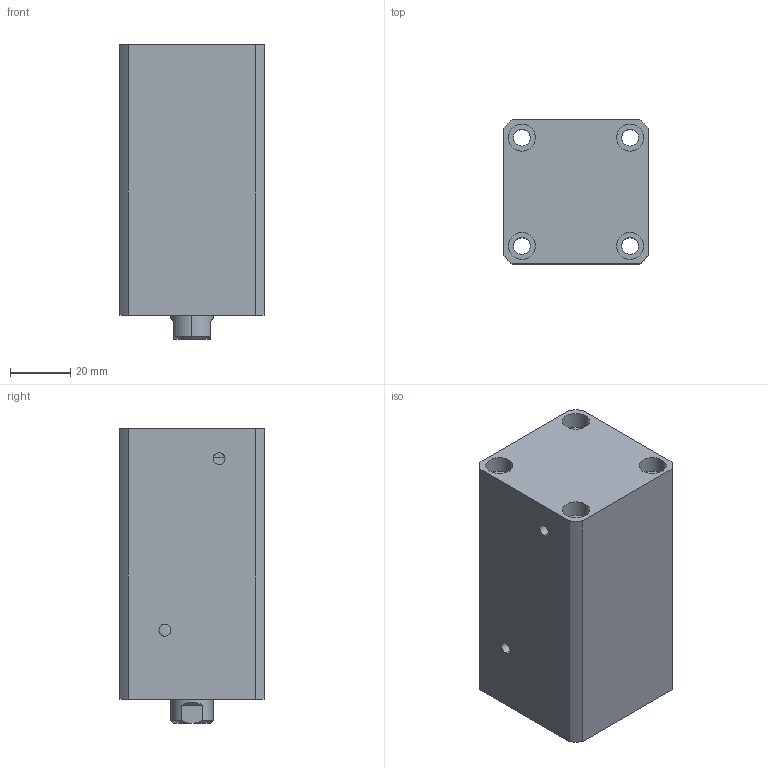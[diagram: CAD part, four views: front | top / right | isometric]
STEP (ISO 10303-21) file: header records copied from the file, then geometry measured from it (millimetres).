
FILE_DESCRIPTION (( 'STEP AP214' ), '1' );
FILE_NAME ('chtb-sdma25x45n_asm.STEP', '2018-05-22T07:06:10', ( 'Windows' ), ( 'Microsoft' ), 'SwSTEP 2.0', 'SolidWorks 2015', '' );
FILE_SCHEMA (( 'AUTOMOTIVE_DESIGN' ));
Length unit declared in the file: millimetre
Products named in the file (4): CHTB-SDMA25X45NHSG; CHTB-SDMA25X45NBT; CHTB-25QG; chtb-sdma25x45n_asm
Assembly tree (3 placements, depth 2):
  chtb-sdma25x45n_asm
    CHTB-25QG
    CHTB-SDMA25X45NBT
    CHTB-SDMA25X45NHSG
Bounding box: 48 x 48 x 98 mm (x, y, z)
Volume: 177964.4 mm3; surface area: 47372.9 mm2
Topology: 3 solids, 3 shells, 142 faces, 379 edges, 257 vertices
Faces by surface type: cylinder 89, plane 34, bspline 10, cone 9
Entity records: 8020 total; most frequent: CARTESIAN_POINT 4393, ORIENTED_EDGE 746, DIRECTION 661, EDGE_CURVE 373, AXIS2_PLACEMENT_3D 272, VERTEX_POINT 257, EDGE_LOOP 180, ADVANCED_FACE 142
